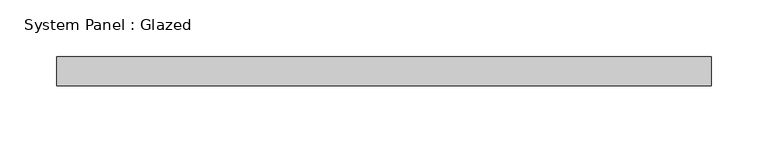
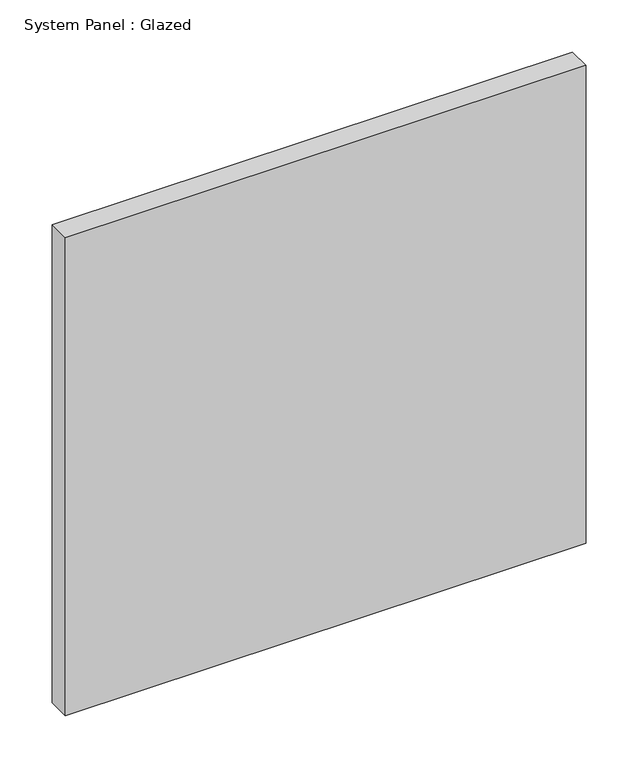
"""IFC4 building model written with IfcOpenShell, lengths in millimetres: plate geometry, System Panel : Glazed."""

from ifc_helpers import new_model, si_unit, origin, origin_with_axes, place, context, project, spatial, polyline, outline, extrude, source, transform, mapped, element, save


def system_panel_glazed_038a278e(model_context):
    return source(origin(), model_context, "Body", "SweptSolid", [
        extrude(outline(polyline([(287.8728478, -12.7), (-287.8728478, -12.7), (-287.8728478, 12.7), (287.8728478, 12.7), (287.8728478, -12.7)])), origin_with_axes(), (0.0, 0.0, 1.0), 558.8),
    ])


if __name__ == "__main__":
    model = new_model("IFC4")
    model_context = context("Model", 3, world=origin())
    ifc_project = project(units=[si_unit("LENGTHUNIT", "METRE", prefix="MILLI")], contexts=[model_context])
    site = spatial("IfcSite", under=ifc_project)
    building = spatial("IfcBuilding", under=site)
    placement = place(None, origin())
    system_panel_glazed_shape = system_panel_glazed_038a278e(model_context)
    element("IfcPlate", 1, ObjectType="System Panel : Glazed", at=placement, inside=building, context=model_context, shape_type="MappedRepresentation", body=[
        mapped(system_panel_glazed_shape, transform((0.0, 0.0, 0.0), x_axis=(1.0, 0.0, 0.0), y_axis=(0.0, 1.0, 0.0), z_axis=(0.0, 0.0, 1.0))),
    ])
    save(model, "model.ifc")
